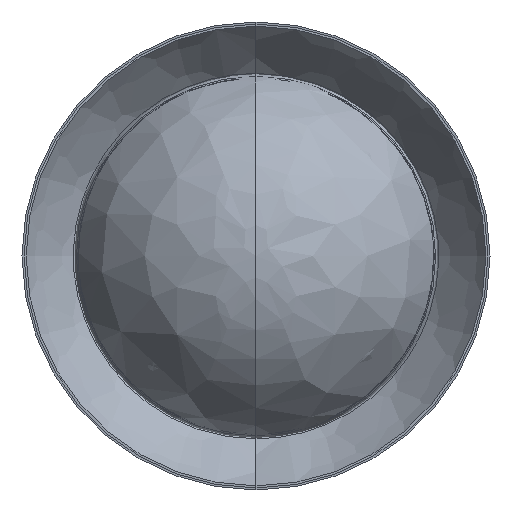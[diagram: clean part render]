
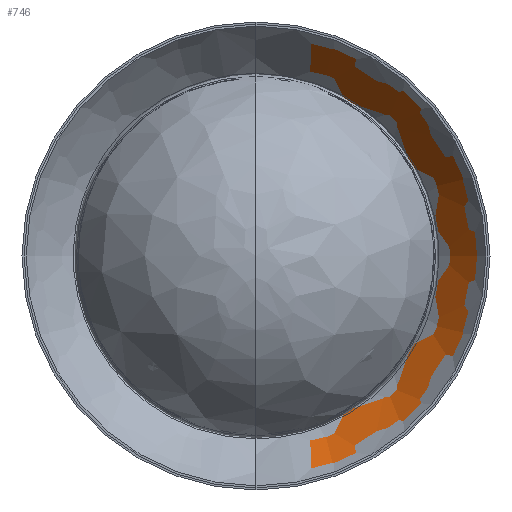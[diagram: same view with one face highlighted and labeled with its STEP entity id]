
A CAD part, top view. The second image highlights one B-rep face of the part: STEP entity #746.
In plain terms, the highlighted free-form (B-spline) face has degree [2, 2] with [3, 5] control points.
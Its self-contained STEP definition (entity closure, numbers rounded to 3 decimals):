
#35=B_SPLINE_CURVE_WITH_KNOTS('',3,(#2599,#2600,#2601,#2602,#2603,#2604,
#2605,#2606,#2607,#2608),.UNSPECIFIED.,.F.,.F.,(4,1,1,1,1,1,1,4),(0.,0.143,
0.286,0.429,0.571,0.714,
0.857,1.),.UNSPECIFIED.);
#88=(
BOUNDED_SURFACE()
B_SPLINE_SURFACE(2,2,((#2684,#2685,#2686,#2687,#2688),(#2689,#2690,#2691,
#2692,#2693),(#2694,#2695,#2696,#2697,#2698)),.UNSPECIFIED.,.F.,.F.,.F.)
B_SPLINE_SURFACE_WITH_KNOTS((3,3),(3,2,3),(-1.33,-0.449),
(-1.571,0.,1.571),.UNSPECIFIED.)
GEOMETRIC_REPRESENTATION_ITEM()
RATIONAL_B_SPLINE_SURFACE(((1.,0.707,1.,0.707,1.),
(0.905,0.64,0.905,0.64,
0.905),(1.,0.707,1.,0.707,1.)))
REPRESENTATION_ITEM('')
SURFACE()
);
#132=FACE_OUTER_BOUND('',#188,.T.);
#188=EDGE_LOOP('',(#626,#627,#628,#629));
#306=CIRCLE('',#836,77.184);
#307=CIRCLE('',#837,99.113);
#308=CIRCLE('',#838,77.184);
#358=VERTEX_POINT('',#2533);
#359=VERTEX_POINT('',#2598);
#360=VERTEX_POINT('',#2699);
#361=VERTEX_POINT('',#2701);
#447=EDGE_CURVE('',#359,#358,#35,.T.);
#450=EDGE_CURVE('',#360,#358,#306,.T.);
#451=EDGE_CURVE('',#361,#360,#307,.T.);
#452=EDGE_CURVE('',#359,#361,#308,.T.);
#626=ORIENTED_EDGE('',*,*,#447,.T.);
#627=ORIENTED_EDGE('',*,*,#450,.F.);
#628=ORIENTED_EDGE('',*,*,#451,.F.);
#629=ORIENTED_EDGE('',*,*,#452,.F.);
#746=ADVANCED_FACE('',(#132),#88,.T.);
#836=AXIS2_PLACEMENT_3D('',#2700,#1026,#1027);
#837=AXIS2_PLACEMENT_3D('',#2702,#1028,#1029);
#838=AXIS2_PLACEMENT_3D('',#2703,#1030,#1031);
#1026=DIRECTION('center_axis',(1.,0.,0.));
#1027=DIRECTION('ref_axis',(0.,-1.,0.));
#1028=DIRECTION('center_axis',(0.,0.,
-1.));
#1029=DIRECTION('ref_axis',(1.,0.,0.));
#1030=DIRECTION('center_axis',(1.,0.,0.));
#1031=DIRECTION('ref_axis',(0.,1.,0.));
#2533=CARTESIAN_POINT('',(0.,-48.031,48.605));
#2598=CARTESIAN_POINT('',(0.,48.031,48.605));
#2599=CARTESIAN_POINT('Ctrl Pts',(0.,48.031,
48.605));
#2600=CARTESIAN_POINT('Ctrl Pts',(7.234,48.135,48.605));
#2601=CARTESIAN_POINT('Ctrl Pts',(21.528,44.703,48.605));
#2602=CARTESIAN_POINT('Ctrl Pts',(38.84,30.982,48.605));
#2603=CARTESIAN_POINT('Ctrl Pts',(48.424,11.048,48.605));
#2604=CARTESIAN_POINT('Ctrl Pts',(48.424,-11.048,48.605));
#2605=CARTESIAN_POINT('Ctrl Pts',(38.84,-30.982,48.605));
#2606=CARTESIAN_POINT('Ctrl Pts',(21.528,-44.703,48.605));
#2607=CARTESIAN_POINT('Ctrl Pts',(7.234,-48.135,48.605));
#2608=CARTESIAN_POINT('Ctrl Pts',(0.,-48.031,
48.605));
#2684=CARTESIAN_POINT('Ctrl Pts',(0.,-48.008,
48.599));
#2685=CARTESIAN_POINT('Ctrl Pts',(48.008,-48.008,48.599));
#2686=CARTESIAN_POINT('Ctrl Pts',(48.008,0.,
48.599));
#2687=CARTESIAN_POINT('Ctrl Pts',(48.008,48.008,48.599));
#2688=CARTESIAN_POINT('Ctrl Pts',(0.,48.008,
48.599));
#2689=CARTESIAN_POINT('Ctrl Pts',(0.,-83.336,
57.293));
#2690=CARTESIAN_POINT('Ctrl Pts',(83.336,-83.336,57.293));
#2691=CARTESIAN_POINT('Ctrl Pts',(83.336,0.,
57.293));
#2692=CARTESIAN_POINT('Ctrl Pts',(83.336,83.336,57.293));
#2693=CARTESIAN_POINT('Ctrl Pts',(0.,83.336,
57.293));
#2694=CARTESIAN_POINT('Ctrl Pts',(0.,-99.113,
90.077));
#2695=CARTESIAN_POINT('Ctrl Pts',(99.113,-99.113,90.077));
#2696=CARTESIAN_POINT('Ctrl Pts',(99.113,0.,
90.077));
#2697=CARTESIAN_POINT('Ctrl Pts',(99.113,99.113,90.077));
#2698=CARTESIAN_POINT('Ctrl Pts',(0.,99.113,
90.077));
#2699=CARTESIAN_POINT('',(0.,-99.113,90.077));
#2700=CARTESIAN_POINT('Origin',(0.,-29.564,
123.547));
#2701=CARTESIAN_POINT('',(0.,99.113,90.077));
#2702=CARTESIAN_POINT('Origin',(0.,0.,
90.077));
#2703=CARTESIAN_POINT('Origin',(0.,29.564,
123.547));
